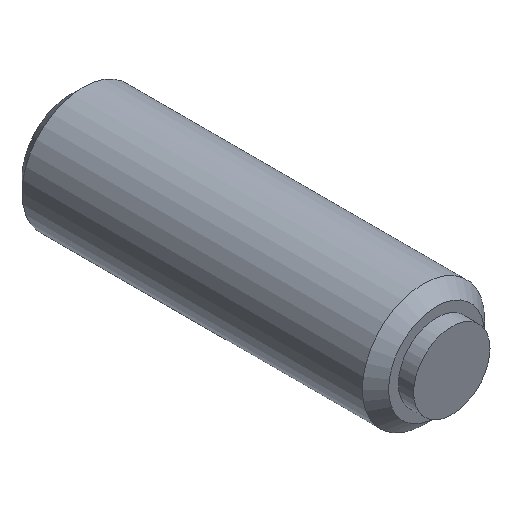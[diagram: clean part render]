
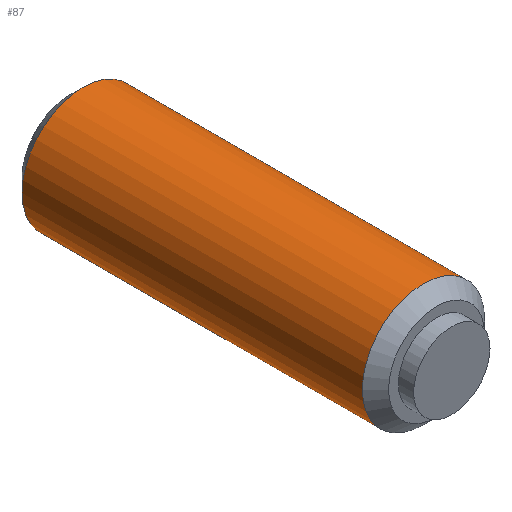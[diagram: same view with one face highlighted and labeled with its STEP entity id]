
A CAD part, isometric view. The second image highlights one B-rep face of the part: STEP entity #87.
In plain terms, the highlighted cylindrical face has radius 2 mm (diameter 4 mm), a full revolution.
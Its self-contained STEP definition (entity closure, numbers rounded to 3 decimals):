
#87 = ADVANCED_FACE( '', ( #118, #119 ), #120, .T. );
#118 = FACE_OUTER_BOUND( '', #152, .T. );
#119 = FACE_OUTER_BOUND( '', #153, .T. );
#120 = CYLINDRICAL_SURFACE( '', #154, 2. );
#152 = EDGE_LOOP( '', ( #238 ) );
#153 = EDGE_LOOP( '', ( #239 ) );
#154 = AXIS2_PLACEMENT_3D( '', #240, #241, #242 );
#238 = ORIENTED_EDGE( '', *, *, #270, .F. );
#239 = ORIENTED_EDGE( '', *, *, #271, .T. );
#240 = CARTESIAN_POINT( '', ( 0., 0., 0. ) );
#241 = DIRECTION( '', ( 0., 1., 0. ) );
#242 = DIRECTION( '', ( 0., 0., -1. ) );
#270 = EDGE_CURVE( '', #310, #310, #311, .T. );
#271 = EDGE_CURVE( '', #312, #312, #313, .T. );
#310 = VERTEX_POINT( '', #370 );
#311 = CIRCLE( '', #371, 2. );
#312 = VERTEX_POINT( '', #372 );
#313 = CIRCLE( '', #373, 2. );
#370 = CARTESIAN_POINT( '', ( 0., 0.93, -2. ) );
#371 = AXIS2_PLACEMENT_3D( '', #404, #405, #406 );
#372 = CARTESIAN_POINT( '', ( 0., 12.071, -2. ) );
#373 = AXIS2_PLACEMENT_3D( '', #407, #408, #409 );
#404 = CARTESIAN_POINT( '', ( 0., 0.93, 0. ) );
#405 = DIRECTION( '', ( 0., -1., 0. ) );
#406 = DIRECTION( '', ( 0., 0., -1. ) );
#407 = CARTESIAN_POINT( '', ( 0., 12.071, 0. ) );
#408 = DIRECTION( '', ( 0., -1., 0. ) );
#409 = DIRECTION( '', ( 0., 0., -1. ) );
